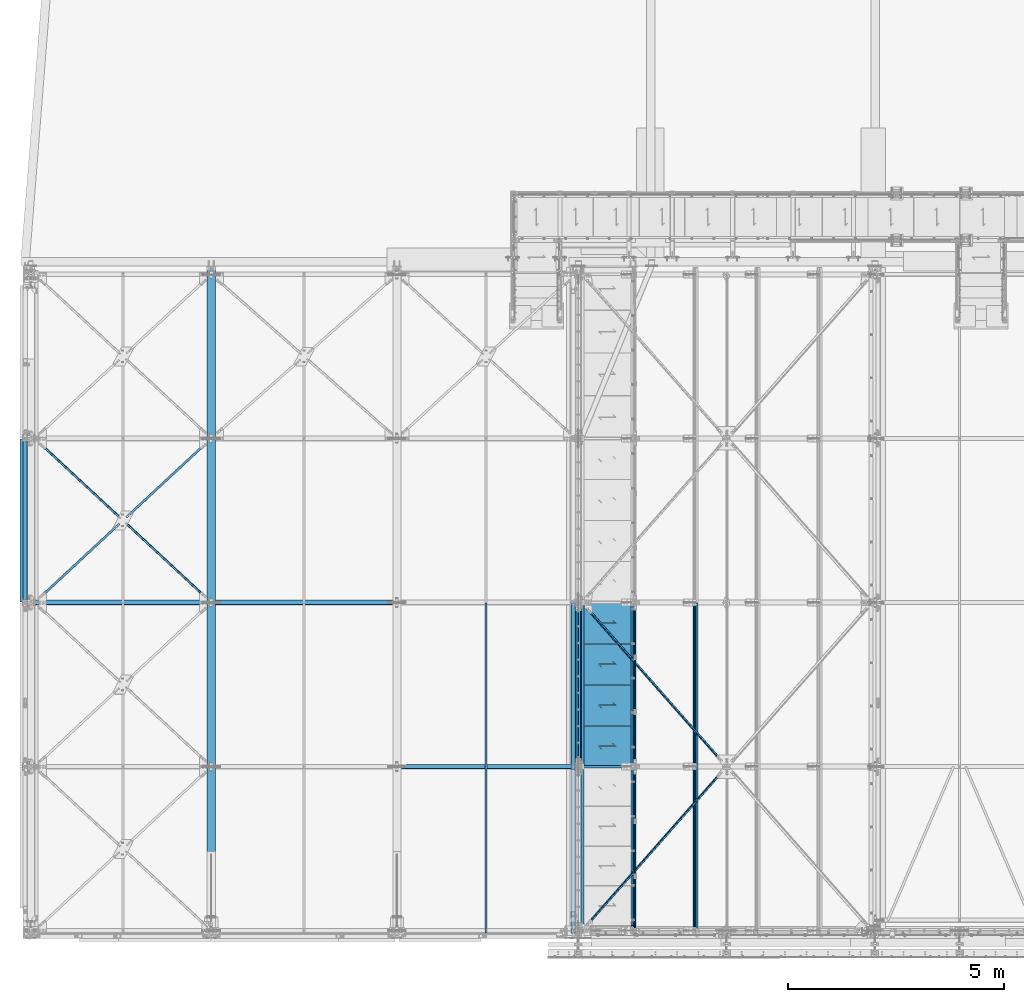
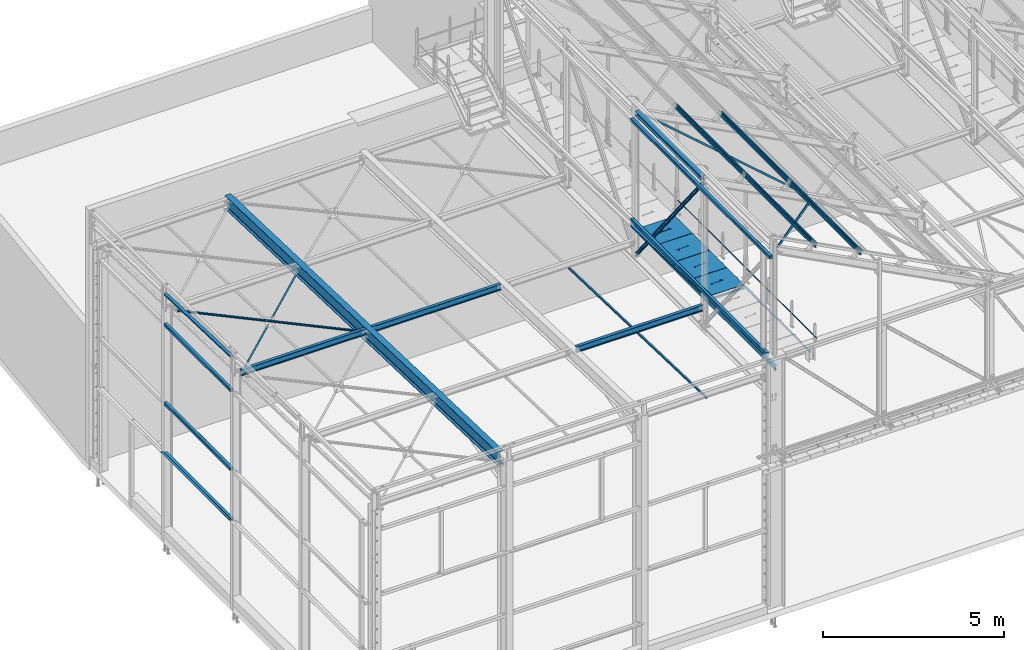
# One storey, part 43 of 362: 30 beams, 2 members, 31 elements without a shape of their own.
"""IFC2X3 building model written with IfcOpenShell, lengths in millimetres."""

from ifc_helpers import new_model, si_unit, frame, origin_with_axes, origin_2d_with_axis, place, context, subcontext, project, spatial, polyline, hollow_rectangle, hollow_circle, i_section, l_section, u_section, outline, extrude, boolean, clip, halfspace, material, type_object, element, aggregate, save


model = new_model("IFC2X3")

# Units and contexts
model_context = context("Model", 3, precision=1e-05, world=origin_with_axes())
body_context = subcontext(model_context, "Body", "Model", "MODEL_VIEW")
ifc_project = project(units=[si_unit("LENGTHUNIT", "METRE", prefix="MILLI"), si_unit("AREAUNIT", "SQUARE_METRE"), si_unit("VOLUMEUNIT", "CUBIC_METRE"), si_unit("MASSUNIT", "GRAM", prefix="KILO"), si_unit("TIMEUNIT", "SECOND"), si_unit("PLANEANGLEUNIT", "RADIAN"), si_unit("SOLIDANGLEUNIT", "STERADIAN"), si_unit("THERMODYNAMICTEMPERATUREUNIT", "DEGREE_CELSIUS"), si_unit("LUMINOUSINTENSITYUNIT", "LUMEN")], contexts=[model_context])

# Site, building, storey
site_placement = place(None, origin_with_axes())
site = spatial("IfcSite", under=ifc_project, at=site_placement, Name="Undefined", CompositionType="ELEMENT")
building_placement = place(site_placement, origin_with_axes())
building = spatial("IfcBuilding", under=site, at=building_placement, Name="Undefined", CompositionType="ELEMENT")
storey_placement = place(building_placement, origin_with_axes())
storey = spatial("IfcBuildingStorey", under=building, at=storey_placement, Name="Undefined", CompositionType="ELEMENT", Elevation=0.0)

# Assembly, beam
assembly_1_placement = place(storey_placement, origin_with_axes())
assembly_1 = element("IfcElementAssembly", 1, at=assembly_1_placement, inside=storey, AssemblyPlace="NOTDEFINED", PredefinedType="NOTDEFINED")
ifc_material_1 = material(Name="Undefined/S235-E24")
beam_type_1 = type_object("IfcBeamType", Name="L50*5", PredefinedType="NOTDEFINED")
beam_1_placement = place(assembly_1_placement, frame((10543.7500126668, -53.9015129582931, 7826.58977123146), z_axis=(1.0, 0.0, 0.0), x_axis=(3.14103090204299e-11, 0.999506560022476, -0.0314107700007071)))
beam_1 = element("IfcBeam", 2, at=beam_1_placement, type_object=beam_type_1, material=ifc_material_1, Name="LIERNE", ObjectType="L50*5", context=body_context, shape_type="SweptSolid", body=[
    extrude(l_section(Depth=50.0, Width=50.0, Thickness=5.0, FilletRadius=7.0, EdgeRadius=3.5, at=origin_2d_with_axis()), frame((7648.75199419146, 0.0, 0.0), z_axis=(-1.0, 0.0, 0.0), x_axis=(0.0, -1.0, 0.0)), (0.0, 0.0, 1.0), 7648.75),
])
aggregate(assembly_1, [beam_1])

assembly_2_placement = place(storey_placement, origin_with_axes())
assembly_2 = element("IfcElementAssembly", 3, at=assembly_2_placement, inside=storey, AssemblyPlace="NOTDEFINED", PredefinedType="NOTDEFINED")
beam_2_placement = place(assembly_2_placement, frame((2132.95804506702, 9498.08089601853, 7520.39497670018), z_axis=(0.680837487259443, -0.732073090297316, 0.0230066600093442), x_axis=(0.732434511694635, 0.680501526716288, -0.0213859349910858)))
beam_2 = element("IfcBeam", 4, at=beam_2_placement, type_object=beam_type_1, material=ifc_material_1, Name="STABILITE CVT", ObjectType="L50*5", context=body_context, shape_type="Clipping", body=[
    clip(clip(extrude(l_section(Depth=50.0, Width=50.0, Thickness=5.0, FilletRadius=7.0, EdgeRadius=3.5, at=origin_2d_with_axis()), frame((2749.59772887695, -9.53958345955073e-15, 7.48261077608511e-14), z_axis=(-1.0, 0.0, 0.0), x_axis=(0.0, -1.0, 0.0)), (0.0, 0.0, 1.0), 2694.26), halfspace(frame((2629.60114437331, 24.9946777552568, 24.9964587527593), z_axis=(0.999999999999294, 3.87284877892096e-07, -1.12347404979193e-06), x_axis=(-1.12347383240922e-06, -5.61299022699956e-07, -0.999999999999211)), False)), halfspace(frame((106.894615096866, 31.0043411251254, 25.0000010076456), z_axis=(1.0, 0.0, 0.0), x_axis=(0.0, 1.0, 0.0)), True)),
])
aggregate(assembly_2, [beam_2])

assembly_3_placement = place(storey_placement, origin_with_axes())
assembly_3 = element("IfcElementAssembly", 5, at=assembly_3_placement, inside=storey, Name="SUPPORT", AssemblyPlace="NOTDEFINED", PredefinedType="NOTDEFINED")
beam_3_placement = place(assembly_3_placement, frame((13921.4998852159, 7595.00000000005, 8075.0), z_axis=(-1.0, 0.0, 0.0), x_axis=(0.0, -1.0, 0.0)))
beam_3 = element("IfcBeam", 6, at=beam_3_placement, type_object=beam_type_1, material=ifc_material_1, Name="SUPPORT", ObjectType="L50*5", context=body_context, shape_type="SweptSolid", body=[
    extrude(l_section(Depth=50.0, Width=50.0, Thickness=5.0, FilletRadius=7.0, EdgeRadius=3.5, at=origin_2d_with_axis()), frame((7469.99998569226, 0.0, 0.0), z_axis=(-1.0, 0.0, 0.0), x_axis=(0.0, -1.0, 0.0)), (0.0, 0.0, 1.0), 7470.0),
])
aggregate(assembly_3, [beam_3])

assembly_4_placement = place(storey_placement, origin_with_axes())
assembly_4 = element("IfcElementAssembly", 7, at=assembly_4_placement, inside=storey, AssemblyPlace="NOTDEFINED", PredefinedType="NOTDEFINED")
beam_4_placement = place(assembly_4_placement, frame((4182.04254050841, 7599.8394379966, 7636.08110078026), z_axis=(-0.680837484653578, -0.732073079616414, 0.0230070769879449), x_axis=(-0.732434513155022, 0.680501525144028, -0.0213859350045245)))
beam_4 = element("IfcBeam", 8, at=beam_4_placement, type_object=beam_type_1, material=ifc_material_1, Name="STABILITE CVT", ObjectType="L50*5", context=body_context, shape_type="Clipping", body=[
    clip(clip(extrude(l_section(Depth=50.0, Width=50.0, Thickness=5.0, FilletRadius=7.0, EdgeRadius=3.5, at=origin_2d_with_axis()), frame((5584.11699845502, 9.2886849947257e-13, 1.41670895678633e-13), z_axis=(-1.0, 0.0, 0.0), x_axis=(0.0, -1.0, 0.0)), (0.0, 0.0, 1.0), 5584.12), halfspace(frame((5421.65334739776, -24.9999835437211, -25.0000000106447), z_axis=(1.0, 0.0, 0.0), x_axis=(0.0, 0.0, 1.0)), False)), halfspace(frame((162.4631484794, 24.9999835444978, -24.9999999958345), z_axis=(-1.0, 0.0, 0.0), x_axis=(0.0, 0.0, 1.0)), False)),
])
aggregate(assembly_4, [beam_4])

assembly_5_placement = place(storey_placement, origin_with_axes())
assembly_5 = element("IfcElementAssembly", 9, at=assembly_5_placement, inside=storey, AssemblyPlace="NOTDEFINED", PredefinedType="NOTDEFINED")
beam_5_placement = place(assembly_5_placement, frame((56.8583181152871, 7569.18625596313, 7581.01491732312), z_axis=(0.680837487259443, -0.732073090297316, 0.0230066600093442), x_axis=(0.732434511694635, 0.680501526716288, -0.0213859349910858)))
beam_5 = element("IfcBeam", 10, at=beam_5_placement, type_object=beam_type_1, material=ifc_material_1, Name="STABILITE CVT", ObjectType="L50*5", context=body_context, shape_type="Clipping", body=[
    clip(clip(extrude(l_section(Depth=50.0, Width=50.0, Thickness=5.0, FilletRadius=7.0, EdgeRadius=3.5, at=origin_2d_with_axis()), frame((2779.17762638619, -9.09494701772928e-13, -9.90549524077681e-13), z_axis=(-1.0, 0.0, 0.0), x_axis=(0.0, -1.0, 0.0)), (0.0, 0.0, 1.0), 2779.18), halfspace(frame((204.923128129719, -24.9999566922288, 25.0000208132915), z_axis=(-1.0, 0.0, 0.0), x_axis=(0.0, 0.0, -1.0)), False)), halfspace(frame((2727.6246361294, 31.004259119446, 25.0000000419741), z_axis=(1.0, 0.0, 0.0), x_axis=(0.0, 1.0, 0.0)), False)),
])
aggregate(assembly_5, [beam_5])

assembly_6_placement = place(storey_placement, origin_with_axes())
assembly_6 = element("IfcElementAssembly", 11, at=assembly_6_placement, inside=storey, AssemblyPlace="NOTDEFINED", PredefinedType="NOTDEFINED")
beam_type_2 = type_object("IfcBeamType", Name="L60*6", PredefinedType="NOTDEFINED")
beam_6_placement = place(assembly_6_placement, frame((16127.0203983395, 3797.88523671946, 10301.8376740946), z_axis=(0.463528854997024, 6.99999093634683e-09, 0.886081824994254), x_axis=(-0.624617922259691, 0.70928572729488, 0.326750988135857)))
beam_6 = element("IfcBeam", 12, at=beam_6_placement, type_object=beam_type_2, material=ifc_material_1, Name="STABILITE CVT", ObjectType="L60*6", context=body_context, shape_type="Clipping", body=[
    clip(clip(extrude(l_section(Depth=60.0, Width=60.0, Thickness=6.0, FilletRadius=8.0, EdgeRadius=4.0, at=origin_2d_with_axis()), frame((5268.62291314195, -4.3870098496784e-13, -3.93044613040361e-12), z_axis=(-1.0, 0.0, 0.0), x_axis=(0.0, -1.0, 0.0)), (0.0, 0.0, 1.0), 5179.74), halfspace(frame((5188.72411935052, -29.999998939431, -29.999975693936), z_axis=(1.0, 0.0, 0.0), x_axis=(0.0, 0.0, 1.0)), False)), halfspace(frame((168.778197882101, 30.0000010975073, -29.9999492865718), z_axis=(-1.0, 0.0, 0.0), x_axis=(0.0, 0.0, 1.0)), False)),
])
aggregate(assembly_6, [beam_6])

assembly_7_placement = place(storey_placement, origin_with_axes())
assembly_7 = element("IfcElementAssembly", 13, at=assembly_7_placement, inside=storey, AssemblyPlace="NOTDEFINED", PredefinedType="NOTDEFINED")
beam_7_placement = place(assembly_7_placement, frame((16127.0203970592, 3802.11476283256, 10301.8376747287), z_axis=(0.628485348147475, -0.704921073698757, -0.328774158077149), x_axis=(-0.624617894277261, -0.709285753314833, 0.326750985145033)))
beam_7 = element("IfcBeam", 14, at=beam_7_placement, type_object=beam_type_2, material=ifc_material_1, Name="STABILITE CVT", ObjectType="L60*6", context=body_context, shape_type="Clipping", body=[
    clip(clip(extrude(l_section(Depth=60.0, Width=60.0, Thickness=6.0, FilletRadius=8.0, EdgeRadius=4.0, at=origin_2d_with_axis()), frame((5268.62291314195, -4.3870098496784e-13, -3.93044613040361e-12), z_axis=(-1.0, 0.0, 0.0), x_axis=(0.0, -1.0, 0.0)), (0.0, 0.0, 1.0), 5179.74), halfspace(frame((5188.72410921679, 29.9999246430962, 30.000000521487), z_axis=(-1.0, 0.0, 0.0), x_axis=(0.0, -1.0, 0.0)), True)), halfspace(frame((168.778057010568, 29.9999474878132, -29.9999995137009), z_axis=(1.0, 0.0, 0.0), x_axis=(0.0, -1.0, 0.0)), True)),
])
aggregate(assembly_7, [beam_7])

assembly_8_placement = place(storey_placement, origin_with_axes())
assembly_8 = element("IfcElementAssembly", 15, at=assembly_8_placement, inside=storey, Name="LISSE", AssemblyPlace="NOTDEFINED", PredefinedType="NOTDEFINED")
beam_type_3 = type_object("IfcBeamType", Name="UPF-100*50*4", PredefinedType="NOTDEFINED")
beam_8_placement = place(assembly_8_placement, frame((12563.5000000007, 3730.03454686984, 8413.05496432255), z_axis=(1.0, 0.0, 0.0), x_axis=(0.0, 0.99950644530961, -0.0314144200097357)))
beam_8 = element("IfcBeam", 16, at=beam_8_placement, type_object=beam_type_3, material=ifc_material_1, Name="LISSE CONTREBARDAGE", ObjectType="UPF-100*50*4", context=body_context, shape_type="SweptSolid", body=[
    extrude(u_section(Depth=100.0, FlangeWidth=50.0, WebThickness=4.0, FlangeThickness=4.0, at=origin_2d_with_axis()), frame((3864.8364307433, 0.0, 0.0), z_axis=(-1.0, 0.0, 0.0), x_axis=(0.0, -1.0, 0.0)), (0.0, 0.0, 1.0), 3864.84),
])
aggregate(assembly_8, [beam_8])

assembly_9_placement = place(storey_placement, origin_with_axes())
assembly_9 = element("IfcElementAssembly", 17, at=assembly_9_placement, inside=storey, Name="LISSE", AssemblyPlace="NOTDEFINED", PredefinedType="NOTDEFINED")
beam_9_placement = place(assembly_9_placement, frame((-129.99999999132, 7600.0, 8291.42237510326), z_axis=(1.0, 0.0, 0.0), x_axis=(0.0, 0.99950644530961, -0.0314144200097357)))
beam_9 = element("IfcBeam", 18, at=beam_9_placement, type_object=beam_type_3, material=ifc_material_1, Name="LISSE CONTREBARDAGE", ObjectType="UPF-100*50*4", context=body_context, shape_type="Clipping", body=[
    clip(clip(extrude(u_section(Depth=100.0, FlangeWidth=50.0, WebThickness=4.0, FlangeThickness=4.0, at=origin_2d_with_axis()), frame((3738.43154409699, 2.59405798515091e-14, 0.0), z_axis=(-1.0, 0.0, 0.0), x_axis=(0.0, -1.0, 0.0)), (0.0, 0.0, 1.0), 3674.99), halfspace(frame((3731.98221168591, 154.697322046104, 49.9999999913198), z_axis=(-0.999506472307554, -0.0314135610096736, 0.0), x_axis=(0.0, 0.0, 1.0)), True)), halfspace(frame((63.7935542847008, 39.4064997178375, 49.9999999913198), z_axis=(-0.999506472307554, -0.0314135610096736, 0.0), x_axis=(0.0, 0.0, 1.0)), False)),
])
aggregate(assembly_9, [beam_9])

assembly_10_placement = place(storey_placement, origin_with_axes())
assembly_10 = element("IfcElementAssembly", 19, at=assembly_10_placement, inside=storey, Name="LISSE", AssemblyPlace="NOTDEFINED", PredefinedType="NOTDEFINED")
beam_type_4 = type_object("IfcBeamType", Name="TUBE-C-100*100*4", PredefinedType="NOTDEFINED")
beam_10_placement = place(assembly_10_placement, frame((-129.999997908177, 11324.9999913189, 4500.00000044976), z_axis=(0.0, 0.0, 1.0), x_axis=(0.0, -1.0, 0.0)))
beam_10 = element("IfcBeam", 20, at=beam_10_placement, type_object=beam_type_4, material=ifc_material_1, Name="LISSE CHASSIS", ObjectType="TUBE-C-100*100*4", context=body_context, shape_type="SweptSolid", body=[
    extrude(hollow_rectangle(XDim=100.0, YDim=100.0, WallThickness=4.0, InnerFilletRadius=4.0, OuterFilletRadius=8.0, at=origin_2d_with_axis()), frame((3650.0, 0.0, 0.0), z_axis=(-1.0, 0.0, 0.0), x_axis=(0.0, -1.0, 0.0)), (0.0, 0.0, 1.0), 3650.0),
])
aggregate(assembly_10, [beam_10])

assembly_11_placement = place(storey_placement, origin_with_axes())
assembly_11 = element("IfcElementAssembly", 21, at=assembly_11_placement, inside=storey, Name="LISSE", AssemblyPlace="NOTDEFINED", PredefinedType="NOTDEFINED")
beam_11_placement = place(assembly_11_placement, frame((12563.5000013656, -70.000000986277, 11869.999999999), z_axis=(0.0, 0.0, -1.0), x_axis=(0.0, 1.0, 0.0)))
beam_11 = element("IfcBeam", 22, at=beam_11_placement, type_object=beam_type_4, material=ifc_material_1, Name="LISSE ACROTERE", ObjectType="TUBE-C-100*100*4", context=body_context, shape_type="SweptSolid", body=[
    extrude(hollow_rectangle(XDim=100.0, YDim=100.0, WallThickness=4.0, InnerFilletRadius=4.0, OuterFilletRadius=8.0, at=origin_2d_with_axis()), frame((7664.99999999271, 0.0, 0.0), z_axis=(-1.0, 0.0, 0.0), x_axis=(0.0, -1.0, 0.0)), (0.0, 0.0, 1.0), 7665.0),
])
aggregate(assembly_11, [beam_11])

assembly_12_placement = place(storey_placement, origin_with_axes())
assembly_12 = element("IfcElementAssembly", 23, at=assembly_12_placement, inside=storey, Name="LISSE", AssemblyPlace="NOTDEFINED", PredefinedType="NOTDEFINED")
beam_12_placement = place(assembly_12_placement, frame((-129.999997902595, 11324.9999991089, 7150.00000059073), z_axis=(0.0, 0.0, -1.0), x_axis=(0.0, -1.0, 0.0)))
beam_12 = element("IfcBeam", 24, at=beam_12_placement, type_object=beam_type_4, material=ifc_material_1, Name="LISSE CHASSIS", ObjectType="TUBE-C-100*100*4", context=body_context, shape_type="SweptSolid", body=[
    extrude(hollow_rectangle(XDim=100.0, YDim=100.0, WallThickness=4.0, InnerFilletRadius=4.0, OuterFilletRadius=8.0, at=origin_2d_with_axis()), frame((3650.0, 0.0, 0.0), z_axis=(-1.0, 0.0, 0.0), x_axis=(0.0, -1.0, 0.0)), (0.0, 0.0, 1.0), 3650.0),
])
aggregate(assembly_12, [beam_12])

assembly_13_placement = place(storey_placement, origin_with_axes())
assembly_13 = element("IfcElementAssembly", 25, at=assembly_13_placement, inside=storey, Name="LISSE", AssemblyPlace="NOTDEFINED", PredefinedType="NOTDEFINED")
beam_13_placement = place(assembly_13_placement, frame((-129.999997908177, 11324.999999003, 2810.00000033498), z_axis=(0.0, 0.0, 1.0), x_axis=(0.0, -1.0, 0.0)))
beam_13 = element("IfcBeam", 26, at=beam_13_placement, type_object=beam_type_4, material=ifc_material_1, Name="LISSE CHASSIS", ObjectType="TUBE-C-100*100*4", context=body_context, shape_type="SweptSolid", body=[
    extrude(hollow_rectangle(XDim=100.0, YDim=100.0, WallThickness=4.0, InnerFilletRadius=4.0, OuterFilletRadius=8.0, at=origin_2d_with_axis()), frame((3650.0, 0.0, 0.0), z_axis=(-1.0, 0.0, 0.0), x_axis=(0.0, -1.0, 0.0)), (0.0, 0.0, 1.0), 3650.0),
])

assembly_14_placement = place(storey_placement, origin_with_axes())
assembly_14 = element("IfcElementAssembly", 27, at=assembly_14_placement, inside=storey, Name="LISSE", AssemblyPlace="NOTDEFINED", PredefinedType="NOTDEFINED")
beam_14_placement = place(assembly_14_placement, frame((12563.5000000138, 119.999999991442, 8499.99999999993), z_axis=(0.0, 0.0, 1.0), x_axis=(0.0, 1.0, 0.0)))
beam_14 = element("IfcBeam", 28, at=beam_14_placement, type_object=beam_type_4, material=ifc_material_1, Name="LISSE ACROTERE", ObjectType="TUBE-C-100*100*4", context=body_context, shape_type="SweptSolid", body=[
    extrude(hollow_rectangle(XDim=100.0, YDim=100.0, WallThickness=4.0, InnerFilletRadius=4.0, OuterFilletRadius=8.0, at=origin_2d_with_axis()), frame((7475.00000000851, 0.0, 0.0), z_axis=(-1.0, 0.0, 0.0), x_axis=(0.0, -1.0, 0.0)), (0.0, 0.0, 1.0), 7475.0),
])
aggregate(assembly_14, [beam_14])

assembly_15_placement = place(storey_placement, origin_with_axes())
assembly_15 = element("IfcElementAssembly", 29, at=assembly_15_placement, inside=storey, AssemblyPlace="NOTDEFINED", PredefinedType="NOTDEFINED")
beam_type_5 = type_object("IfcBeamType", Name="TOLE30*940", PredefinedType="NOTDEFINED")
beam_15_placement = place(assembly_15_placement, frame((13936.4998764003, 4744.99999523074, 8115.0), z_axis=(0.0, 0.0, 1.0), x_axis=(-1.0, 0.0, 0.0)))
beam_15 = element("IfcBeam", 30, at=beam_15_placement, type_object=beam_type_5, material=ifc_material_1, Name="CAILLEBOTIS", ObjectType="TOLE30*940", context=body_context, shape_type="CSG", body=[
    boolean("DIFFERENCE", extrude(outline(polyline([(0.0, 0.0), (1179.99169921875, 0.0), (1179.99169921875, 940.0), (-9.39995516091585e-07, 940.0), (0.0, 0.0)])), frame((0.0, 0.0, -15.0), z_axis=(0.0, 0.0, 1.0), x_axis=(1.0, 0.0, 0.0)), (0.0, 0.0, 1.0), 30.0), extrude(outline(polyline([(0.0, 0.0), (9.99999999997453, 6.91215973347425e-11), (10.0000000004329, 75.8578643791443), (282.842712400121, -196.984848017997), (282.842712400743, -96.9848480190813), (272.842712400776, -96.9848480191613), (272.842712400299, -172.842712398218), (0.0, 100.0), (0.0, 0.0)])), frame((724.286946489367, 535.710676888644, -17.5), z_axis=(0.0, 0.0, 1.0), x_axis=(-0.707106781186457, -0.707106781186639, 0.0)), (0.0, 0.0, 1.0), 35.0)),
])
aggregate(assembly_15, [beam_15])

assembly_16_placement = place(storey_placement, origin_with_axes())
assembly_16 = element("IfcElementAssembly", 31, at=assembly_16_placement, inside=storey, AssemblyPlace="NOTDEFINED", PredefinedType="NOTDEFINED")
beam_16_placement = place(assembly_16_placement, frame((13936.4998821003, 5694.99999523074, 8115.0), z_axis=(0.0, 0.0, 1.0), x_axis=(-1.0, 0.0, 0.0)))
beam_16 = element("IfcBeam", 32, at=beam_16_placement, type_object=beam_type_5, material=ifc_material_1, Name="CAILLEBOTIS", ObjectType="TOLE30*940", context=body_context, shape_type="CSG", body=[
    boolean("DIFFERENCE", extrude(outline(polyline([(0.0, 0.0), (1179.99169921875, 0.0), (1179.99169921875, 940.0), (-9.39995516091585e-07, 940.0), (0.0, 0.0)])), frame((0.0, 0.0, -15.0), z_axis=(0.0, 0.0, 1.0), x_axis=(1.0, 0.0, 0.0)), (0.0, 0.0, 1.0), 30.0), extrude(outline(polyline([(0.0, 0.0), (9.99999999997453, 6.91215973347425e-11), (10.0000000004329, 75.8578643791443), (282.842712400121, -196.984848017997), (282.842712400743, -96.9848480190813), (272.842712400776, -96.9848480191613), (272.842712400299, -172.842712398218), (0.0, 100.0), (0.0, 0.0)])), frame((724.286946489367, 535.710676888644, -17.5), z_axis=(0.0, 0.0, 1.0), x_axis=(-0.707106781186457, -0.707106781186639, 0.0)), (0.0, 0.0, 1.0), 35.0)),
])
aggregate(assembly_16, [beam_16])

assembly_17_placement = place(storey_placement, origin_with_axes())
assembly_17 = element("IfcElementAssembly", 33, at=assembly_17_placement, inside=storey, AssemblyPlace="NOTDEFINED", PredefinedType="NOTDEFINED")
beam_17_placement = place(assembly_17_placement, frame((13936.4998878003, 6644.99999523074, 8115.0), z_axis=(0.0, 0.0, 1.0), x_axis=(-1.0, 0.0, 0.0)))
beam_17 = element("IfcBeam", 34, at=beam_17_placement, type_object=beam_type_5, material=ifc_material_1, Name="CAILLEBOTIS", ObjectType="TOLE30*940", context=body_context, shape_type="CSG", body=[
    boolean("DIFFERENCE", extrude(outline(polyline([(0.0, 0.0), (1179.99169921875, 0.0), (1179.99169921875, 940.0), (-9.39995516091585e-07, 940.0), (0.0, 0.0)])), frame((0.0, 0.0, -15.0), z_axis=(0.0, 0.0, 1.0), x_axis=(1.0, 0.0, 0.0)), (0.0, 0.0, 1.0), 30.0), extrude(outline(polyline([(0.0, 0.0), (9.99999999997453, 6.91215973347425e-11), (10.0000000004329, 75.8578643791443), (282.842712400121, -196.984848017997), (282.842712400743, -96.9848480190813), (272.842712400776, -96.9848480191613), (272.842712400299, -172.842712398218), (0.0, 100.0), (0.0, 0.0)])), frame((724.286946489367, 535.710676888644, -17.5), z_axis=(0.0, 0.0, 1.0), x_axis=(-0.707106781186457, -0.707106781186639, 0.0)), (0.0, 0.0, 1.0), 35.0)),
])
aggregate(assembly_17, [beam_17])

assembly_18_placement = place(storey_placement, origin_with_axes())
assembly_18 = element("IfcElementAssembly", 35, at=assembly_18_placement, inside=storey, AssemblyPlace="NOTDEFINED", PredefinedType="NOTDEFINED")
beam_18_placement = place(assembly_18_placement, frame((13936.4998935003, 7595.0, 8115.0), z_axis=(0.0, 0.0, 1.0), x_axis=(-1.0, 0.0, 0.0)))
beam_18 = element("IfcBeam", 36, at=beam_18_placement, type_object=beam_type_5, material=ifc_material_1, Name="CAILLEBOTIS", ObjectType="TOLE30*940", context=body_context, shape_type="CSG", body=[
    boolean("DIFFERENCE", extrude(outline(polyline([(0.0, 0.0), (1179.99169921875, 0.0), (1179.99169921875, 940.0), (-9.39995516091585e-07, 940.0), (0.0, 0.0)])), frame((0.0, 0.0, -15.0), z_axis=(0.0, 0.0, 1.0), x_axis=(1.0, 0.0, 0.0)), (0.0, 0.0, 1.0), 30.0), extrude(outline(polyline([(0.0, 0.0), (9.99999999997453, 6.91215973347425e-11), (10.0000000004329, 75.8578643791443), (282.842712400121, -196.984848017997), (282.842712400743, -96.9848480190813), (272.842712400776, -96.9848480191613), (272.842712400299, -172.842712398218), (0.0, 100.0), (0.0, 0.0)])), frame((724.286946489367, 535.710676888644, -17.5), z_axis=(0.0, 0.0, 1.0), x_axis=(-0.707106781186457, -0.707106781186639, 0.0)), (0.0, 0.0, 1.0), 35.0)),
])
aggregate(assembly_18, [beam_18])

# Beam
beam_type_6 = type_object("IfcBeamType", Name="L70*7", PredefinedType="NOTDEFINED")
beam_19_placement = place(assembly_13_placement, frame((-215.000001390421, 11389.9999976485, 2824.99999058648), z_axis=(-1.0, 0.0, 0.0), x_axis=(0.0, -1.0, 0.0)))
beam_19 = element("IfcBeam", 37, at=beam_19_placement, type_object=beam_type_6, material=ifc_material_1, Name="LISSE CHASSIS", ObjectType="L70*7", context=body_context, shape_type="SweptSolid", body=[
    extrude(l_section(Depth=70.0, Width=70.0, Thickness=7.0, FilletRadius=9.0, EdgeRadius=4.5, at=origin_2d_with_axis()), frame((3779.99999902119, 1.5633713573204e-21, 0.0), z_axis=(-1.0, 0.0, 0.0), x_axis=(0.0, -1.0, 0.0)), (0.0, 0.0, 1.0), 3780.0),
])

aggregate(assembly_13, [beam_19, beam_13])

# Assembly, beam
assembly_19_placement = place(storey_placement, origin_with_axes())
assembly_19 = element("IfcElementAssembly", 38, at=assembly_19_placement, inside=storey, Name="MAIN COURANTE", AssemblyPlace="NOTDEFINED", PredefinedType="NOTDEFINED")
beam_type_7 = type_object("IfcBeamType", Name="TUBE-26.9*2", PredefinedType="NOTDEFINED")
beam_20_placement = place(assembly_19_placement, frame((13993.9998855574, 3745.00000944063, 8673.80000478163), z_axis=(0.0, 0.0, 1.0), x_axis=(0.0, -1.0, 0.0)))
beam_20 = element("IfcBeam", 39, at=beam_20_placement, type_object=beam_type_7, material=ifc_material_1, Name="LISSE", ObjectType="TUBE-26.9*2", context=body_context, shape_type="SweptSolid", body=[
    extrude(hollow_circle(Radius=13.44999981, WallThickness=2.0, at=origin_2d_with_axis()), frame((3844.99656169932, 3.84499533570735e-24, 0.0), z_axis=(-1.0, 0.0, 0.0), x_axis=(0.0, -1.0, 0.0)), (0.0, 0.0, 1.0), 3845.0),
])
aggregate(assembly_19, [beam_20])

assembly_20_placement = place(storey_placement, origin_with_axes())
assembly_20 = element("IfcElementAssembly", 40, at=assembly_20_placement, inside=storey, Name="MAIN COURANTE", AssemblyPlace="NOTDEFINED", PredefinedType="NOTDEFINED")
beam_21_placement = place(assembly_20_placement, frame((13993.9998882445, 7545.000009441, 8673.80000207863), z_axis=(0.0, 0.0, 1.0), x_axis=(0.0, -1.0, 0.0)))
beam_21 = element("IfcBeam", 41, at=beam_21_placement, type_object=beam_type_7, material=ifc_material_1, Name="LISSE", ObjectType="TUBE-26.9*2", context=body_context, shape_type="SweptSolid", body=[
    extrude(hollow_circle(Radius=13.44999981, WallThickness=2.0, at=origin_2d_with_axis()), frame((3690.00000000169, 3.69000323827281e-24, 0.0), z_axis=(-1.0, 0.0, 0.0), x_axis=(0.0, -1.0, 0.0)), (0.0, 0.0, 1.0), 3690.0),
])
aggregate(assembly_20, [beam_21])

assembly_21_placement = place(storey_placement, origin_with_axes())
assembly_21 = element("IfcElementAssembly", 42, at=assembly_21_placement, inside=storey, AssemblyPlace="NOTDEFINED", PredefinedType="NOTDEFINED")
ifc_material_2 = material(Name="Undefined/S275-E28")
beam_type_8 = type_object("IfcBeamType", Name="HEA140", PredefinedType="NOTDEFINED")
beam_22_placement = place(assembly_21_placement, frame((12683.5, 7525.0, 12103.5), z_axis=(0.0, 0.0, 1.0), x_axis=(0.0, -1.0, 0.0)))
beam_22 = element("IfcBeam", 43, at=beam_22_placement, type_object=beam_type_8, material=ifc_material_2, Name="LONGERON", ObjectType="HEA140", context=body_context, shape_type="SweptSolid", body=[
    extrude(i_section(OverallWidth=140.0, OverallDepth=133.0, WebThickness=5.5, FlangeThickness=8.5, FilletRadius=12.0, at=origin_2d_with_axis()), frame((3650.0, 0.0, 0.0), z_axis=(-1.0, 0.0, 0.0), x_axis=(0.0, -1.0, 0.0)), (0.0, 0.0, 1.0), 3650.0),
])
aggregate(assembly_21, [beam_22])

assembly_22_placement = place(storey_placement, origin_with_axes())
assembly_22 = element("IfcElementAssembly", 44, at=assembly_22_placement, inside=storey, AssemblyPlace="NOTDEFINED", PredefinedType="NOTDEFINED")
beam_type_9 = type_object("IfcBeamType", Name="UPF-150*70*5", PredefinedType="NOTDEFINED")
beam_23_placement = place(assembly_22_placement, frame((12781.5083416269, 20.000001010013, 8025.0), z_axis=(0.0, 0.0, 1.0), x_axis=(0.0, 1.0, 0.0)))
beam_23 = element("IfcBeam", 45, at=beam_23_placement, type_object=beam_type_9, material=ifc_material_1, Name="LONGERON", ObjectType="UPF-150*70*5", context=body_context, shape_type="SweptSolid", body=[
    extrude(u_section(Depth=150.0, FlangeWidth=70.0, WebThickness=5.0, FlangeThickness=5.0, at=origin_2d_with_axis()), frame((7575.00000051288, 0.0, 0.0), z_axis=(-1.0, 0.0, 0.0), x_axis=(0.0, -1.0, 0.0)), (0.0, 0.0, 1.0), 7575.0),
])
aggregate(assembly_22, [beam_23])

assembly_23_placement = place(storey_placement, origin_with_axes())
assembly_23 = element("IfcElementAssembly", 46, at=assembly_23_placement, inside=storey, Name="PANNE SHED", AssemblyPlace="NOTDEFINED", PredefinedType="NOTDEFINED")
beam_type_10 = type_object("IfcBeamType", Name="B140/150", PredefinedType="NOTDEFINED")
beam_24_placement = place(assembly_23_placement, frame((13958.9855141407, -154.999920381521, 11830.980379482), z_axis=(0.463528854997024, 6.99999093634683e-09, 0.886081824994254), x_axis=(0.0, 1.0, 0.0)))
beam_24 = element("IfcBeam", 47, at=beam_24_placement, type_object=beam_type_10, material=ifc_material_1, Name="PANNE SHED", ObjectType="B140/150", context=body_context, shape_type="SweptSolid", body=[
    extrude(outline(polyline([(-27.9999999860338, 36.0000000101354), (-27.999999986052, 70.0000000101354), (28.0000000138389, 70.0000000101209), (28.0000000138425, 58.0000000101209), (26.5000000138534, 58.0000000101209), (26.5000000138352, 68.5000000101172), (-26.4999999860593, 68.5000000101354), (-26.4999999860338, 36.7000007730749), (-1.49999998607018, 15.6999998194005), (-1.49999998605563, -15.6999997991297), (-26.4999999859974, -36.7000007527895), (-26.4999999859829, -68.49999998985), (26.5000000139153, -68.4999999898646), (26.500000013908, -57.9999999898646), (28.0000000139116, -57.9999999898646), (28.0000000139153, -69.9999999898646), (-27.9999999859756, -69.99999998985), (-27.9999999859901, -35.99999998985), (-2.99999998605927, -14.9999999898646), (-2.9999999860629, 15.0000000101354), (-27.9999999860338, 36.0000000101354)])), frame((7750.00000000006, -3.63797880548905e-12, 0.0), z_axis=(-1.0, 0.0, 0.0), x_axis=(0.0, -1.0, 0.0)), (0.0, 0.0, 1.0), 7750.0),
])
aggregate(assembly_23, [beam_24])

assembly_24_placement = place(storey_placement, origin_with_axes())
assembly_24 = element("IfcElementAssembly", 48, at=assembly_24_placement, inside=storey, Name="PANNE SHED", AssemblyPlace="NOTDEFINED", PredefinedType="NOTDEFINED")
beam_25_placement = place(assembly_24_placement, frame((15396.2855150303, -154.999920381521, 11079.0980095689), z_axis=(0.463528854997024, 6.99999093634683e-09, 0.886081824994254), x_axis=(0.0, 1.0, 0.0)))
beam_25 = element("IfcBeam", 49, at=beam_25_placement, type_object=beam_type_10, material=ifc_material_1, Name="PANNE SHED", ObjectType="B140/150", context=body_context, shape_type="SweptSolid", body=[
    extrude(outline(polyline([(-27.9999999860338, 36.0000000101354), (-27.999999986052, 70.0000000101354), (28.0000000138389, 70.0000000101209), (28.0000000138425, 58.0000000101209), (26.5000000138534, 58.0000000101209), (26.5000000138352, 68.5000000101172), (-26.4999999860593, 68.5000000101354), (-26.4999999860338, 36.7000007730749), (-1.49999998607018, 15.6999998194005), (-1.49999998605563, -15.6999997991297), (-26.4999999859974, -36.7000007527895), (-26.4999999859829, -68.49999998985), (26.5000000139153, -68.4999999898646), (26.500000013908, -57.9999999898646), (28.0000000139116, -57.9999999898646), (28.0000000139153, -69.9999999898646), (-27.9999999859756, -69.99999998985), (-27.9999999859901, -35.99999998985), (-2.99999998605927, -14.9999999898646), (-2.9999999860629, 15.0000000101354), (-27.9999999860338, 36.0000000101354)])), frame((7750.00000000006, -3.63797880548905e-12, 0.0), z_axis=(-1.0, 0.0, 0.0), x_axis=(0.0, -1.0, 0.0)), (0.0, 0.0, 1.0), 7750.0),
])
aggregate(assembly_24, [beam_25])

# Assembly, member
assembly_25_placement = place(storey_placement, origin_with_axes())
assembly_25 = element("IfcElementAssembly", 50, at=assembly_25_placement, inside=storey, AssemblyPlace="NOTDEFINED", PredefinedType="NOTDEFINED")
member_type = type_object("IfcMemberType", Name="UPN80", PredefinedType="NOTDEFINED")
member_1_placement = place(assembly_25_placement, frame((12707.4999999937, 7599.99999999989, 7250.0), z_axis=(0.0, -0.783225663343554, -0.621737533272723), x_axis=(0.0, -0.621737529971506, 0.783225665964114)))
member_1 = element("IfcMember", 51, at=member_1_placement, type_object=member_type, material=ifc_material_2, Name="DIAGONALE", ObjectType="UPN80", context=body_context, shape_type="Clipping", body=[
    clip(clip(extrude(u_section(Depth=80.0, FlangeWidth=45.0, WebThickness=6.0, FlangeThickness=8.0, FilletRadius=8.0, EdgeRadius=4.0, FlangeSlope=0.0798299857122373, at=origin_2d_with_axis()), frame((6070.59674052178, 0.0, 0.0), z_axis=(-1.0, 0.0, 0.0), x_axis=(0.0, -1.0, 0.0)), (0.0, 0.0, 1.0), 6029.29), halfspace(frame((5991.90387685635, 27.5000000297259, -40.0000004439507), z_axis=(-1.0, 0.0, 0.0), x_axis=(0.0, 1.0, 0.0)), True)), halfspace(frame((119.999999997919, 27.49999999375, -39.9999989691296), z_axis=(-1.0, 0.0, 0.0), x_axis=(0.0, 1.0, 0.0)), False)),
])
aggregate(assembly_25, [member_1])

assembly_26_placement = place(storey_placement, origin_with_axes())
assembly_26 = element("IfcElementAssembly", 52, at=assembly_26_placement, inside=storey, AssemblyPlace="NOTDEFINED", PredefinedType="NOTDEFINED")
member_2_placement = place(assembly_26_placement, frame((12652.4999999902, 3800.00000000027, 12037.0), z_axis=(0.0, -0.783225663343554, -0.621737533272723), x_axis=(0.0, 0.621737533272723, -0.783225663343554)))
member_2 = element("IfcMember", 53, at=member_2_placement, type_object=member_type, material=ifc_material_2, Name="DIAGONALE", ObjectType="UPN80", context=body_context, shape_type="Clipping", body=[
    clip(clip(extrude(u_section(Depth=80.0, FlangeWidth=45.0, WebThickness=6.0, FlangeThickness=8.0, FilletRadius=8.0, EdgeRadius=4.0, FlangeSlope=0.0798299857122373, at=origin_2d_with_axis()), frame((6070.59674052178, 0.0, 0.0), z_axis=(-1.0, 0.0, 0.0), x_axis=(0.0, -1.0, 0.0)), (0.0, 0.0, 1.0), 6029.29), halfspace(frame((5991.90387685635, 27.5000000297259, -40.0000004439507), z_axis=(1.0, 0.0, 0.0), x_axis=(0.0, -1.0, 0.0)), False)), halfspace(frame((119.999999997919, 27.49999999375, -39.9999989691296), z_axis=(1.0, 0.0, 0.0), x_axis=(0.0, -1.0, 0.0)), True)),
])
aggregate(assembly_26, [member_2])

# Assembly, beam
assembly_27_placement = place(storey_placement, origin_with_axes())
assembly_27 = element("IfcElementAssembly", 54, at=assembly_27_placement, inside=storey, Name="TRAVERSE", AssemblyPlace="NOTDEFINED", PredefinedType="NOTDEFINED")
beam_type_11 = type_object("IfcBeamType", Name="IPE450", PredefinedType="NOTDEFINED")
beam_26_placement = place(assembly_27_placement, frame((4180.00000000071, -7.06742078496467, 7825.11102391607), z_axis=(-1.05403257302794e-09, -0.0314112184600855, -0.999506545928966), x_axis=(3.14103090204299e-11, 0.999506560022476, -0.0314107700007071)))
beam_26 = element("IfcBeam", 55, at=beam_26_placement, type_object=beam_type_11, material=ifc_material_2, Name="TRAVERSE", ObjectType="IPE450", context=body_context, shape_type="Clipping", body=[
    clip(clip(extrude(i_section(OverallWidth=190.0, OverallDepth=450.0, WebThickness=9.399999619, FlangeThickness=14.60000038, FilletRadius=21.0, at=origin_2d_with_axis()), frame((15397.5977849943, 0.0, 0.0), z_axis=(-1.0, 0.0, 0.0), x_axis=(0.0, -1.0, 0.0)), (0.0, 0.0, 1.0), 15397.6), halfspace(frame((15367.5829744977, -95.0, -224.999999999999), z_axis=(0.999506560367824, 0.0, -0.0314107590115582), x_axis=(0.0314107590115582, 0.0, 0.999506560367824)), False)), halfspace(frame((335.150577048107, 95.0, -225.471161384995), z_axis=(-0.999506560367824, 0.0, 0.0314107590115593), x_axis=(0.0314107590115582, 0.0, 0.999506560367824)), False)),
])
aggregate(assembly_27, [beam_26])

assembly_28_placement = place(storey_placement, origin_with_axes())
assembly_28 = element("IfcElementAssembly", 56, at=assembly_28_placement, inside=storey, AssemblyPlace="NOTDEFINED", PredefinedType="NOTDEFINED")
beam_type_12 = type_object("IfcBeamType", Name="TUBE-C-60*60*3", PredefinedType="NOTDEFINED")
beam_27_placement = place(assembly_28_placement, frame((12758.0001144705, 3800.0, 8015.0), z_axis=(0.0, -1.0, 0.0), x_axis=(1.0, 0.0, 0.0)))
beam_27 = element("IfcBeam", 57, at=beam_27_placement, type_object=beam_type_12, material=ifc_material_1, Name="SOLIVE", ObjectType="TUBE-C-60*60*3", context=body_context, shape_type="SweptSolid", body=[
    extrude(hollow_rectangle(XDim=60.0, YDim=60.0, WallThickness=3.0, InnerFilletRadius=3.0, OuterFilletRadius=6.0, at=origin_2d_with_axis()), frame((1181.99977105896, 0.0, 0.0), z_axis=(-1.0, 0.0, 0.0), x_axis=(0.0, -1.0, 0.0)), (0.0, 0.0, 1.0), 1182.0),
])
aggregate(assembly_28, [beam_27])

assembly_29_placement = place(storey_placement, origin_with_axes())
assembly_29 = element("IfcElementAssembly", 58, at=assembly_29_placement, inside=storey, AssemblyPlace="NOTDEFINED", PredefinedType="NOTDEFINED")
beam_type_13 = type_object("IfcBeamType", Name="IPE200", PredefinedType="NOTDEFINED")
beam_28_placement = place(assembly_29_placement, frame((4280.0, 7599.99999998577, 7711.11096504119), z_axis=(7.58071938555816e-11, 0.0314107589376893, 0.999506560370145), x_axis=(1.0, 0.0, 0.0)))
beam_28 = element("IfcBeam", 59, at=beam_28_placement, type_object=beam_type_13, material=ifc_material_2, Name="PANNE", ObjectType="IPE200", context=body_context, shape_type="SweptSolid", body=[
    extrude(i_section(OverallWidth=100.0, OverallDepth=200.0, WebThickness=5.599999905, FlangeThickness=8.5, FilletRadius=12.0, at=origin_2d_with_axis()), frame((4100.0, 0.0, 0.0), z_axis=(-1.0, 0.0, 0.0), x_axis=(0.0, -1.0, 0.0)), (0.0, 0.0, 1.0), 4100.0),
])
aggregate(assembly_29, [beam_28])

assembly_30_placement = place(storey_placement, origin_with_axes())
assembly_30 = element("IfcElementAssembly", 60, at=assembly_30_placement, inside=storey, AssemblyPlace="NOTDEFINED", PredefinedType="NOTDEFINED")
beam_29_placement = place(assembly_30_placement, frame((8579.99999999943, 3800.00552192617, 7830.53062122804), z_axis=(7.58071938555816e-11, 0.0314107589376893, 0.999506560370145), x_axis=(1.0, 0.0, 0.0)))
beam_29 = element("IfcBeam", 61, at=beam_29_placement, type_object=beam_type_13, material=ifc_material_2, Name="PANNE", ObjectType="IPE200", context=body_context, shape_type="SweptSolid", body=[
    extrude(i_section(OverallWidth=100.0, OverallDepth=200.0, WebThickness=5.599999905, FlangeThickness=8.5, FilletRadius=12.0, at=origin_2d_with_axis()), frame((4023.49999999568, 0.0, 0.0), z_axis=(-1.0, 0.0, 0.0), x_axis=(0.0, -1.0, 0.0)), (0.0, 0.0, 1.0), 4023.5),
])
aggregate(assembly_30, [beam_29])

assembly_31_placement = place(storey_placement, origin_with_axes())
assembly_31 = element("IfcElementAssembly", 62, at=assembly_31_placement, inside=storey, AssemblyPlace="NOTDEFINED", PredefinedType="NOTDEFINED")
beam_30_placement = place(assembly_31_placement, frame((100.000000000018, 7599.99999998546, 7711.11096504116), z_axis=(7.58071938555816e-11, 0.0314107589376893, 0.999506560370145), x_axis=(1.0, 0.0, 0.0)))
beam_30 = element("IfcBeam", 63, at=beam_30_placement, type_object=beam_type_13, material=ifc_material_2, Name="PANNE", ObjectType="IPE200", context=body_context, shape_type="SweptSolid", body=[
    extrude(i_section(OverallWidth=100.0, OverallDepth=200.0, WebThickness=5.599999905, FlangeThickness=8.5, FilletRadius=12.0, at=origin_2d_with_axis()), frame((3980.00000000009, 0.0, 0.0), z_axis=(-1.0, 0.0, 0.0), x_axis=(0.0, -1.0, 0.0)), (0.0, 0.0, 1.0), 3980.0),
])
aggregate(assembly_31, [beam_30])

save(model, "model.ifc")
